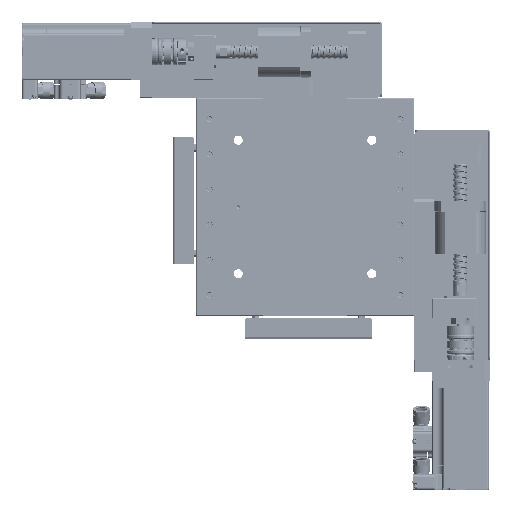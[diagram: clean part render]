
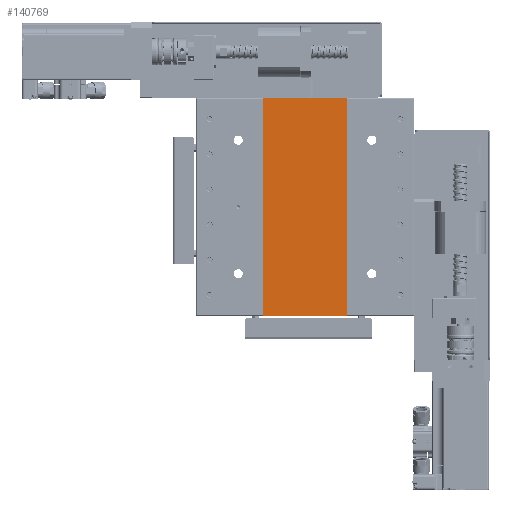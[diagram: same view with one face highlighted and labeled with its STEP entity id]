
A CAD part, front view. The second image highlights one B-rep face of the part: STEP entity #140769.
In plain terms, the highlighted planar face has unit normal (0, -1, 0).
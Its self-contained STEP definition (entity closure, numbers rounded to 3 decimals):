
#5039 = EDGE_CURVE ( 'NONE', #105971, #225059, #219495, .T. ) ;
#22577 = VECTOR ( 'NONE', #63691, 1000. ) ;
#29022 = ORIENTED_EDGE ( 'NONE', *, *, #207659, .T. ) ;
#35672 = CARTESIAN_POINT ( 'NONE',  ( -37.772, -17.424, 249.75 ) ) ;
#45510 = EDGE_LOOP ( 'NONE', ( #120896, #316924, #235454, #29022 ) ) ;
#46025 = VERTEX_POINT ( 'NONE', #256526 ) ;
#63691 = DIRECTION ( 'NONE',  ( -1., 0., 0. ) ) ;
#95185 = DIRECTION ( 'NONE',  ( 0., 0., -1. ) ) ;
#98223 = CARTESIAN_POINT ( 'NONE',  ( -7.772, -17.424, 172.25 ) ) ;
#102466 = VERTEX_POINT ( 'NONE', #219201 ) ;
#105971 = VERTEX_POINT ( 'NONE', #279351 ) ;
#120896 = ORIENTED_EDGE ( 'NONE', *, *, #294695, .T. ) ;
#140769 = ADVANCED_FACE ( 'NONE', ( #210420 ), #150778, .T. ) ;
#150778 = PLANE ( 'NONE',  #287390 ) ;
#178301 = CARTESIAN_POINT ( 'NONE',  ( 22.228, -17.424, 249.75 ) ) ;
#183162 = DIRECTION ( 'NONE',  ( 0., 0., -1. ) ) ;
#192169 = CARTESIAN_POINT ( 'NONE',  ( -37.772, -17.424, 172.25 ) ) ;
#207659 = EDGE_CURVE ( 'NONE', #102466, #46025, #213874, .T. ) ;
#210420 = FACE_OUTER_BOUND ( 'NONE', #45510, .T. ) ;
#213874 = LINE ( 'NONE', #220571, #22577 ) ;
#218121 = LINE ( 'NONE', #35672, #281290 ) ;
#219201 = CARTESIAN_POINT ( 'NONE',  ( 22.228, -17.424, 327.25 ) ) ;
#219495 = LINE ( 'NONE', #98223, #261576 ) ;
#220571 = CARTESIAN_POINT ( 'NONE',  ( -7.772, -17.424, 327.25 ) ) ;
#225059 = VERTEX_POINT ( 'NONE', #192169 ) ;
#227918 = DIRECTION ( 'NONE',  ( -1., 0., 0. ) ) ;
#229476 = LINE ( 'NONE', #178301, #278111 ) ;
#230933 = CARTESIAN_POINT ( 'NONE',  ( -7.772, -17.424, 249.75 ) ) ;
#235454 = ORIENTED_EDGE ( 'NONE', *, *, #282163, .T. ) ;
#256521 = DIRECTION ( 'NONE',  ( 0., -1., 0. ) ) ;
#256526 = CARTESIAN_POINT ( 'NONE',  ( -37.772, -17.424, 327.25 ) ) ;
#261576 = VECTOR ( 'NONE', #227918, 1000. ) ;
#278111 = VECTOR ( 'NONE', #333366, 1000. ) ;
#279351 = CARTESIAN_POINT ( 'NONE',  ( 22.228, -17.424, 172.25 ) ) ;
#281290 = VECTOR ( 'NONE', #95185, 1000. ) ;
#282163 = EDGE_CURVE ( 'NONE', #105971, #102466, #229476, .T. ) ;
#287390 = AXIS2_PLACEMENT_3D ( 'NONE', #230933, #256521, #183162 ) ;
#294695 = EDGE_CURVE ( 'NONE', #46025, #225059, #218121, .T. ) ;
#316924 = ORIENTED_EDGE ( 'NONE', *, *, #5039, .F. ) ;
#333366 = DIRECTION ( 'NONE',  ( 0., 0., 1. ) ) ;
